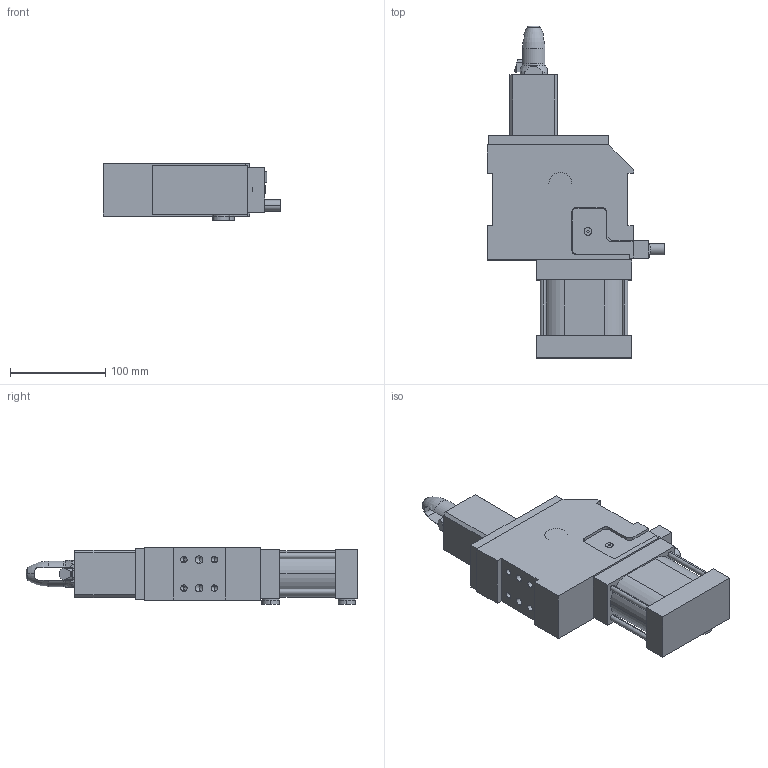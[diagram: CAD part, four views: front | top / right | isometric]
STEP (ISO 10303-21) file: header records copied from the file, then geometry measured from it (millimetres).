
FILE_DESCRIPTION (( 'STEP AP203' ), '1' );
FILE_NAME ('dca63.1i_09840_xyz.STEP', '2016-07-05T09:37:14', ( '' ), ( '' ), 'SwSTEP 2.0', 'SolidWorks 2015', '' );
FILE_SCHEMA (( 'CONFIG_CONTROL_DESIGN' ));
Length unit declared in the file: millimetre
Products named in the file (10): gruppo biella dca63; gruppo perno_tassello 9840_xyz_dca63; tappo cil G1_4 din908; rondella tappo G1_4; riparo_fc_dca63.1; blocchetto_p&f_0; gruppo montante dca63.1; dca63.1i_09840_xyz; gruppo cilindro dca63.1; gruppo gancio dca63
Assembly tree (11 placements, depth 2):
  dca63.1i_09840_xyz
    gruppo montante dca63.1
    gruppo cilindro dca63.1
    gruppo gancio dca63
    gruppo biella dca63
    gruppo perno_tassello 9840_xyz_dca63
    tappo cil G1_4 din908  x2
    rondella tappo G1_4  x2
    riparo_fc_dca63.1
    blocchetto_p&f_0
Bounding box: 187 x 349 x 59.5 mm (x, y, z)
Volume: 1454110.5 mm3; surface area: 228531.3 mm2
Topology: 11 solids, 11 shells, 449 faces, 1119 edges, 710 vertices
Faces by surface type: plane 236, cylinder 159, cone 44, torus 10
Entity records: 13997 total; most frequent: CARTESIAN_POINT 2494, DIRECTION 2223, ORIENTED_EDGE 2090, EDGE_CURVE 1045, AXIS2_PLACEMENT_3D 773, VERTEX_POINT 682, LINE 677, VECTOR 677
